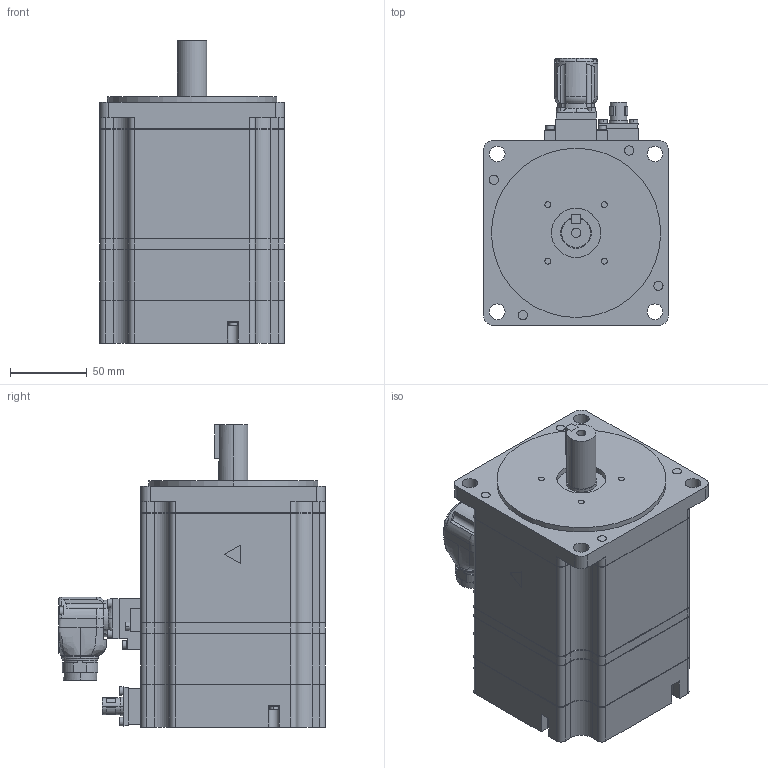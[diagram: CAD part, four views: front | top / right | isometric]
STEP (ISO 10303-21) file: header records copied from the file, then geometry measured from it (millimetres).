
FILE_DESCRIPTION (( 'STEP AP203' ), '1' );
FILE_NAME ('sgm7j_15d_f6c.STEP', '2016-03-01T07:01:01', ( '匠エンジニアリング山之内' ), ( 'TAKUMI-Engniaring' ), 'SwSTEP 2.0', 'SolidWorks 2006303', '' );
FILE_SCHEMA (( 'CONFIG_CONTROL_DESIGN' ));
Length unit declared in the file: millimetre
Products named in the file (4): sgm7j_15d_f6c_base; sgm7j_15d_f6c_key; sgm7j_15d_f6c; sgm7j_15d_f6c_connector
Assembly tree (3 placements, depth 2):
  sgm7j_15d_f6c
    sgm7j_15d_f6c_base
    sgm7j_15d_f6c_key
    sgm7j_15d_f6c_connector
Bounding box: 120.1 x 173.5 x 196.6 mm (x, y, z)
Volume: 2149614.4 mm3; surface area: 120199.7 mm2
Topology: 3 solids, 3 shells, 626 faces, 1650 edges, 1082 vertices
Faces by surface type: plane 322, cylinder 275, bspline 20, torus 9
Entity records: 21086 total; most frequent: CARTESIAN_POINT 4795, DIRECTION 3421, ORIENTED_EDGE 3296, EDGE_CURVE 1648, AXIS2_PLACEMENT_3D 1231, VERTEX_POINT 1082, VECTOR 959, LINE 959
